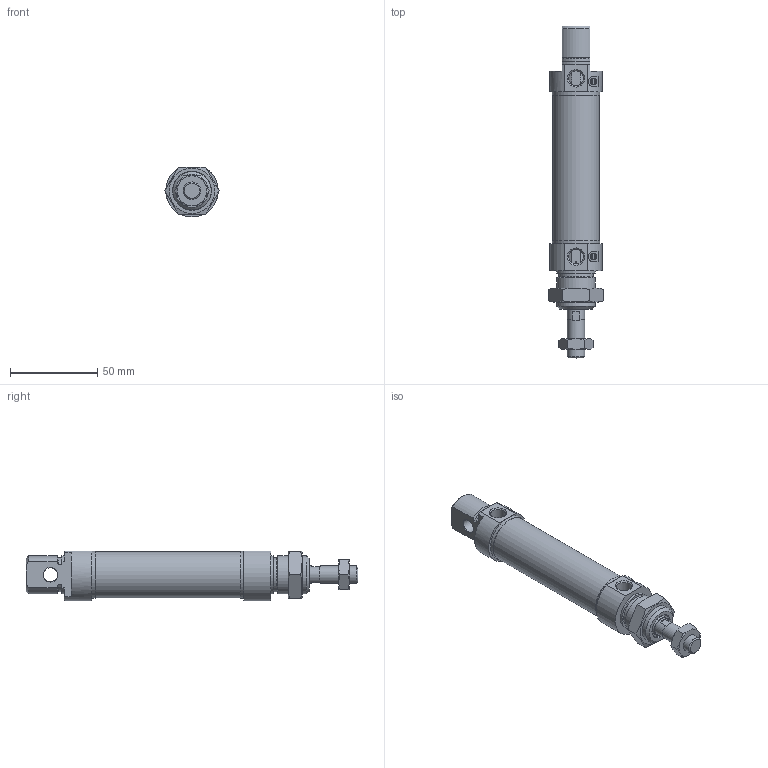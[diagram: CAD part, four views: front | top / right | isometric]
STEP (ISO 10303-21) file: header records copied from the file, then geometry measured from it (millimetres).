
FILE_DESCRIPTION(/* description */ ('Unknown'),/* implementation_level */ '2;1');
FILE_NAME(/* name */ 'RDM 25_50',/* time_stamp */ '2024-08-28T11:49:18+02:00',/* author */ ('Unknown'),/* organization */ ('Unknown'),/* preprocessor_version */ 'ST-DEVELOPER v16.7',/* originating_system */ 'Solid Edge',/* authorisation */ 'Unknown');
FILE_SCHEMA (('AUTOMOTIVE_DESIGN {1 0 10303 214 3 1 1}'));
Length unit declared in the file: millimetre
Products named in the file (7): RDM 25_50; Profilrohr; Kolbenstange; Kit_1; Kit_2; Mutter_1; Mutter_2
Assembly tree (6 placements, depth 2):
  RDM 25_50
    Profilrohr
    Kolbenstange
    Kit_1
    Kit_2
    Mutter_1
    Mutter_2
Bounding box: 31.18 x 190 x 28.45 mm (x, y, z)
Volume: 67180.9 mm3; surface area: 36372.5 mm2
Topology: 6 solids, 8 shells, 195 faces, 429 edges, 271 vertices
Faces by surface type: plane 76, cylinder 55, cone 53, torus 9, bspline 2
Full cylindrical faces by diameter (mm): 1.75 x2, 1.8 x2, 3.4 x2, 3.5 x2, 8 x1, 8.5 x1, 8.55 x1, 8.56 x1, 8.566 x3, 8.647 x1, 10 x2, 10.5 x2, 11.1 x1, 12 x1, 14 x1, 14.1 x1, 16.1 x1, 16.2 x1, 19.7 x1, 20.376 x1, 22 x2, 25 x2, 26.5 x1, 27 x2
Entity records: 6379 total; most frequent: CARTESIAN_POINT 1129, DIRECTION 815, ORIENTED_EDGE 656, AXIS2_PLACEMENT_3D 360, EDGE_CURVE 328, FACE_BOUND 303, EDGE_LOOP 301, VERTEX_POINT 247
